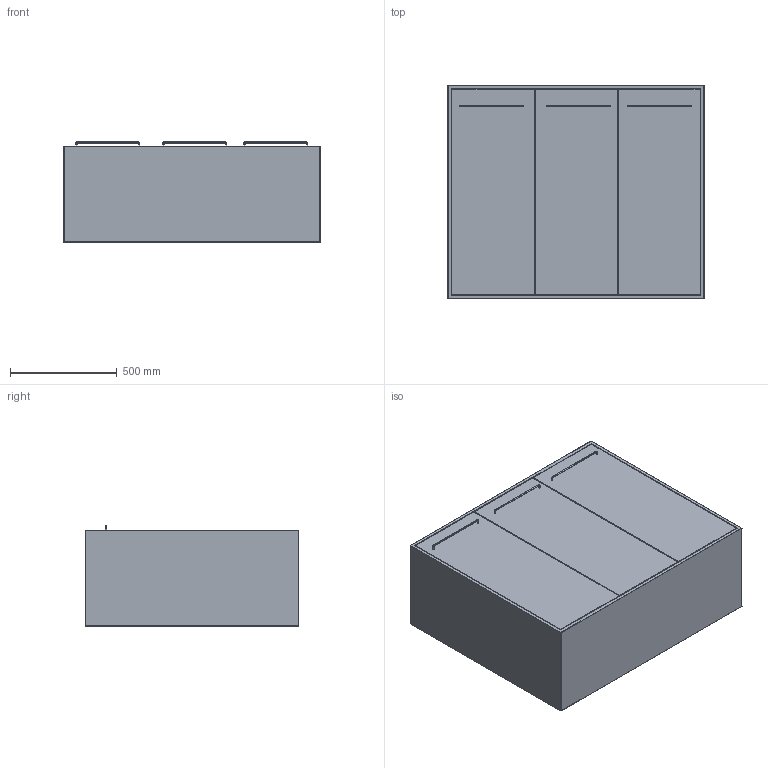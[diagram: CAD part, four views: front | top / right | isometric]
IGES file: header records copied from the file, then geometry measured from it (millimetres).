
Start section: SolidWorks IGES file using analytic representation for surfaces
Global section: file name: C:\Users\hcaixa\Documents\Gabinete Tecnico\72_produtos cliente\Timsteel\Mesas\Mesas Escritorio Operativas\Sistema Level Timsteel\AREIA-STUDIO FURNITURE CONCEPT\IGS\Armario Areia h1000.IGS; native system: SolidWorks 2014; preprocessor: SolidWorks 2014; author: hcaixa; date: 190703.132715; units: millimetre
Bounding box: 1200 x 1000 x 470 mm (x, y, z)
Surface area: 4935036.8 mm2 (no closed solid volume)
Topology: 0 solids, 0 shells, 124 faces, 776 edges, 768 vertices
Faces by surface type: revolution 68, bspline 56
